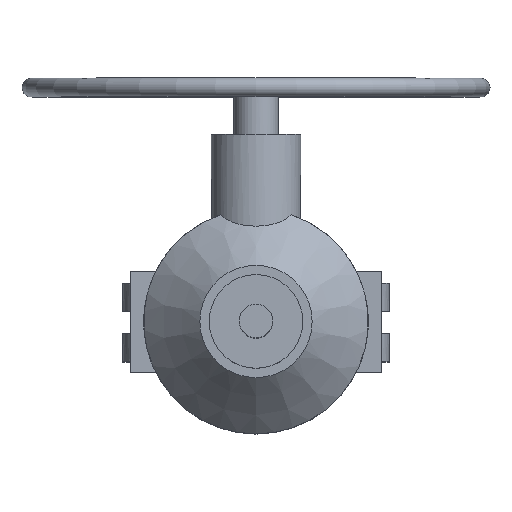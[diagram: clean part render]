
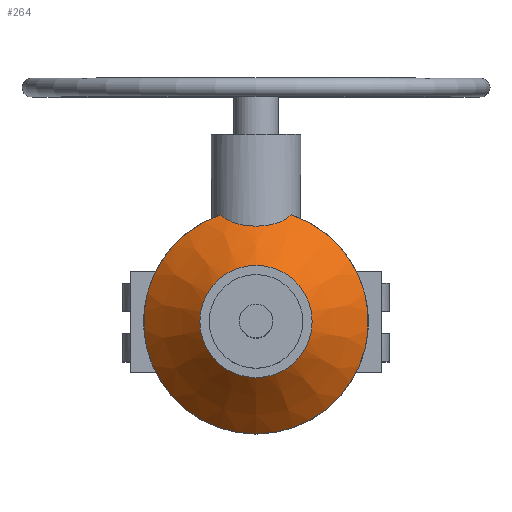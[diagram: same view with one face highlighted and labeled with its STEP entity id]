
A CAD part, top view. The second image highlights one B-rep face of the part: STEP entity #264.
In plain terms, the highlighted conical face has half-angle 45 degrees and reference radius 45 mm.
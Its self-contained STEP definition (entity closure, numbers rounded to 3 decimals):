
#264=ADVANCED_FACE('',(#1300,#1302),#1304,.T.);
#1300=FACE_BOUND('',#1301,.T.);
#1301=EDGE_LOOP('',(#2153,#2154,#2155,#2156));
#1302=FACE_OUTER_BOUND('',#1303,.T.);
#1303=EDGE_LOOP('',(#2157));
#1304=CONICAL_SURFACE('',#1305,45.,0.785);
#1305=AXIS2_PLACEMENT_3D('',#1306,#1307,#1308);
#1306=CARTESIAN_POINT('',(0.,0.,340.));
#1307=DIRECTION('',(0.,0.,-1.));
#1308=DIRECTION('',(0.,-1.,0.));
#2153=ORIENTED_EDGE('',*,*,#2664,.F.);
#2154=ORIENTED_EDGE('',*,*,#2665,.F.);
#2155=ORIENTED_EDGE('',*,*,#2666,.F.);
#2156=ORIENTED_EDGE('',*,*,#2667,.F.);
#2157=ORIENTED_EDGE('',*,*,#2649,.T.);
#2649=EDGE_CURVE('',#2965,#2965,#2966,.T.);
#2664=EDGE_CURVE('',#2991,#2992,#2993,.F.);
#2665=EDGE_CURVE('',#2994,#2991,#2995,.F.);
#2666=EDGE_CURVE('',#2996,#2994,#2997,.T.);
#2667=EDGE_CURVE('',#2992,#2996,#2998,.T.);
#2965=VERTEX_POINT('',#3544);
#2966=CIRCLE('',#3545,30.);
#2991=VERTEX_POINT('',#3603);
#2992=VERTEX_POINT('',#3604);
#2993=B_SPLINE_CURVE_WITH_KNOTS('',3,
(#3605,#3606,#3607,#3608,#3609,#3610,#3611,#3612,#3613,#3614,#3615,#3616,#3617,#3618,
#3619,#3620,#3621,#3622,#3623,#3624,#3625,#3626,#3627,#3628,#3629,#3630,#3631,#3632,
#3633,#3634,#3635,#3636,#3637,#3638,#3639,#3640,#3641,#3642,#3643,#3644,#3645,#3646,
#3647,#3648),
.UNSPECIFIED.,.F.,.F.,
(4,1,1,1,1,1,1,1,1,1,1,1,1,1,1,1,1,1,1,1,1,1,1,1,1,1,1,1,1,1,1,1,1,1,1,1,1,1,1,1,
1,4),
(0.,0.02,0.041,0.061,0.082,
0.102,0.122,0.143,0.163,0.183,
0.204,0.224,0.245,0.266,0.287,
0.308,0.329,0.351,0.375,0.401,
0.441,0.481,0.521,0.551,0.581,
0.621,0.661,0.701,0.735,0.766,
0.794,0.814,0.834,0.853,0.873,
0.892,0.91,0.929,0.947,0.965,
0.982,1.),
.UNSPECIFIED.);
#2994=VERTEX_POINT('',#3649);
#2995=B_SPLINE_CURVE_WITH_KNOTS('',3,
(#3650,#3651,#3652,#3653,#3654,#3655,#3656,#3657,#3658,#3659,#3660,#3661,#3662,#3663,
#3664,#3665,#3666,#3667,#3668,#3669,#3670,#3671,#3672,#3673,#3674,#3675,#3676,#3677,
#3678,#3679,#3680,#3681,#3682,#3683,#3684,#3685,#3686,#3687,#3688,#3689,#3690,#3691,
#3692),
.UNSPECIFIED.,.F.,.F.,
(4,1,1,1,1,1,1,1,1,1,1,1,1,1,1,1,1,1,1,1,1,1,1,1,1,1,1,1,1,1,1,1,1,1,1,1,1,1,1,1,
4),
(0.,0.024,0.047,0.071,0.095,
0.118,0.145,0.173,0.216,0.258,
0.3,0.337,0.371,0.403,0.43,
0.459,0.501,0.543,0.584,0.62,
0.652,0.681,0.703,0.724,0.744,
0.764,0.783,0.802,0.82,0.838,
0.855,0.871,0.887,0.903,0.918,
0.932,0.946,0.96,0.974,0.987,
1.),
.UNSPECIFIED.);
#2996=VERTEX_POINT('',#3693);
#2997=CIRCLE('',#3694,60.);
#2998=CIRCLE('',#3698,60.);
#3544=CARTESIAN_POINT('',(0.,-30.,355.));
#3545=AXIS2_PLACEMENT_3D('',#3546,#3547,#3548);
#3546=CARTESIAN_POINT('',(0.,0.,355.));
#3547=DIRECTION('',(0.,0.,-1.));
#3548=DIRECTION('',(0.,-1.,0.));
#3603=CARTESIAN_POINT('',(0.,51.,334.));
#3604=CARTESIAN_POINT('',(18.735,57.,325.));
#3605=CARTESIAN_POINT('',(18.735,57.,325.));
#3606=CARTESIAN_POINT('',(18.653,56.919,325.102));
#3607=CARTESIAN_POINT('',(18.487,56.759,325.306));
#3608=CARTESIAN_POINT('',(18.232,56.523,325.61));
#3609=CARTESIAN_POINT('',(17.97,56.291,325.91));
#3610=CARTESIAN_POINT('',(17.702,56.064,326.208));
#3611=CARTESIAN_POINT('',(17.428,55.841,326.502));
#3612=CARTESIAN_POINT('',(17.147,55.623,326.794));
#3613=CARTESIAN_POINT('',(16.859,55.409,327.083));
#3614=CARTESIAN_POINT('',(16.564,55.199,327.369));
#3615=CARTESIAN_POINT('',(16.262,54.994,327.652));
#3616=CARTESIAN_POINT('',(15.953,54.793,327.932));
#3617=CARTESIAN_POINT('',(15.636,54.596,328.21));
#3618=CARTESIAN_POINT('',(15.31,54.403,328.484));
#3619=CARTESIAN_POINT('',(14.976,54.214,328.756));
#3620=CARTESIAN_POINT('',(14.633,54.029,329.025));
#3621=CARTESIAN_POINT('',(14.281,53.848,329.291));
#3622=CARTESIAN_POINT('',(13.919,53.672,329.553));
#3623=CARTESIAN_POINT('',(13.534,53.493,329.822));
#3624=CARTESIAN_POINT('',(13.109,53.306,330.106));
#3625=CARTESIAN_POINT('',(12.567,53.083,330.451));
#3626=CARTESIAN_POINT('',(11.915,52.835,330.84));
#3627=CARTESIAN_POINT('',(11.159,52.577,331.254));
#3628=CARTESIAN_POINT('',(10.444,52.357,331.613));
#3629=CARTESIAN_POINT('',(9.777,52.171,331.922));
#3630=CARTESIAN_POINT('',(9.098,51.998,332.213));
#3631=CARTESIAN_POINT('',(8.34,51.825,332.51));
#3632=CARTESIAN_POINT('',(7.502,51.657,332.803));
#3633=CARTESIAN_POINT('',(6.695,51.517,333.052));
#3634=CARTESIAN_POINT('',(5.942,51.403,333.257));
#3635=CARTESIAN_POINT('',(5.267,51.314,333.418));
#3636=CARTESIAN_POINT('',(4.687,51.247,333.54));
#3637=CARTESIAN_POINT('',(4.184,51.196,333.634));
#3638=CARTESIAN_POINT('',(3.741,51.156,333.708));
#3639=CARTESIAN_POINT('',(3.304,51.121,333.773));
#3640=CARTESIAN_POINT('',(2.873,51.091,333.829));
#3641=CARTESIAN_POINT('',(2.447,51.066,333.876));
#3642=CARTESIAN_POINT('',(2.028,51.045,333.915));
#3643=CARTESIAN_POINT('',(1.614,51.028,333.947));
#3644=CARTESIAN_POINT('',(1.206,51.015,333.971));
#3645=CARTESIAN_POINT('',(0.8,51.006,333.988));
#3646=CARTESIAN_POINT('',(0.399,51.001,333.998));
#3647=CARTESIAN_POINT('',(0.133,51.,334.));
#3648=CARTESIAN_POINT('',(0.,51.,334.));
#3649=CARTESIAN_POINT('',(-18.735,57.,325.));
#3650=CARTESIAN_POINT('',(0.,51.,334.));
#3651=CARTESIAN_POINT('',(-0.179,51.,334.));
#3652=CARTESIAN_POINT('',(-0.536,51.002,333.996));
#3653=CARTESIAN_POINT('',(-1.071,51.012,333.978));
#3654=CARTESIAN_POINT('',(-1.604,51.027,333.948));
#3655=CARTESIAN_POINT('',(-2.137,51.05,333.907));
#3656=CARTESIAN_POINT('',(-2.688,51.079,333.851));
#3657=CARTESIAN_POINT('',(-3.277,51.118,333.778));
#3658=CARTESIAN_POINT('',(-4.,51.177,333.669));
#3659=CARTESIAN_POINT('',(-4.836,51.261,333.514));
#3660=CARTESIAN_POINT('',(-5.759,51.376,333.305));
#3661=CARTESIAN_POINT('',(-6.634,51.506,333.071));
#3662=CARTESIAN_POINT('',(-7.442,51.647,332.822));
#3663=CARTESIAN_POINT('',(-8.165,51.789,332.572));
#3664=CARTESIAN_POINT('',(-8.806,51.93,332.329));
#3665=CARTESIAN_POINT('',(-9.401,52.074,332.085));
#3666=CARTESIAN_POINT('',(-10.056,52.246,331.797));
#3667=CARTESIAN_POINT('',(-10.798,52.462,331.44));
#3668=CARTESIAN_POINT('',(-11.601,52.724,331.016));
#3669=CARTESIAN_POINT('',(-12.342,52.994,330.589));
#3670=CARTESIAN_POINT('',(-13.005,53.261,330.175));
#3671=CARTESIAN_POINT('',(-13.579,53.512,329.793));
#3672=CARTESIAN_POINT('',(-14.055,53.737,329.456));
#3673=CARTESIAN_POINT('',(-14.457,53.938,329.159));
#3674=CARTESIAN_POINT('',(-14.801,54.119,328.894));
#3675=CARTESIAN_POINT('',(-15.133,54.302,328.63));
#3676=CARTESIAN_POINT('',(-15.451,54.485,328.367));
#3677=CARTESIAN_POINT('',(-15.755,54.669,328.106));
#3678=CARTESIAN_POINT('',(-16.044,54.851,327.851));
#3679=CARTESIAN_POINT('',(-16.318,55.032,327.6));
#3680=CARTESIAN_POINT('',(-16.577,55.209,327.356));
#3681=CARTESIAN_POINT('',(-16.823,55.384,327.118));
#3682=CARTESIAN_POINT('',(-17.055,55.554,326.887));
#3683=CARTESIAN_POINT('',(-17.276,55.723,326.661));
#3684=CARTESIAN_POINT('',(-17.486,55.888,326.44));
#3685=CARTESIAN_POINT('',(-17.688,56.053,326.223));
#3686=CARTESIAN_POINT('',(-17.88,56.214,326.011));
#3687=CARTESIAN_POINT('',(-18.064,56.374,325.803));
#3688=CARTESIAN_POINT('',(-18.24,56.532,325.599));
#3689=CARTESIAN_POINT('',(-18.411,56.688,325.397));
#3690=CARTESIAN_POINT('',(-18.575,56.844,325.198));
#3691=CARTESIAN_POINT('',(-18.682,56.948,325.066));
#3692=CARTESIAN_POINT('',(-18.735,57.,325.));
#3693=CARTESIAN_POINT('',(0.,-60.,325.));
#3694=AXIS2_PLACEMENT_3D('',#3695,#3696,#3697);
#3695=CARTESIAN_POINT('',(0.,0.,325.));
#3696=DIRECTION('',(0.,0.,-1.));
#3697=DIRECTION('',(0.,-1.,0.));
#3698=AXIS2_PLACEMENT_3D('',#3699,#3700,#3701);
#3699=CARTESIAN_POINT('',(0.,0.,325.));
#3700=DIRECTION('',(0.,0.,-1.));
#3701=DIRECTION('',(0.312,0.95,0.));
